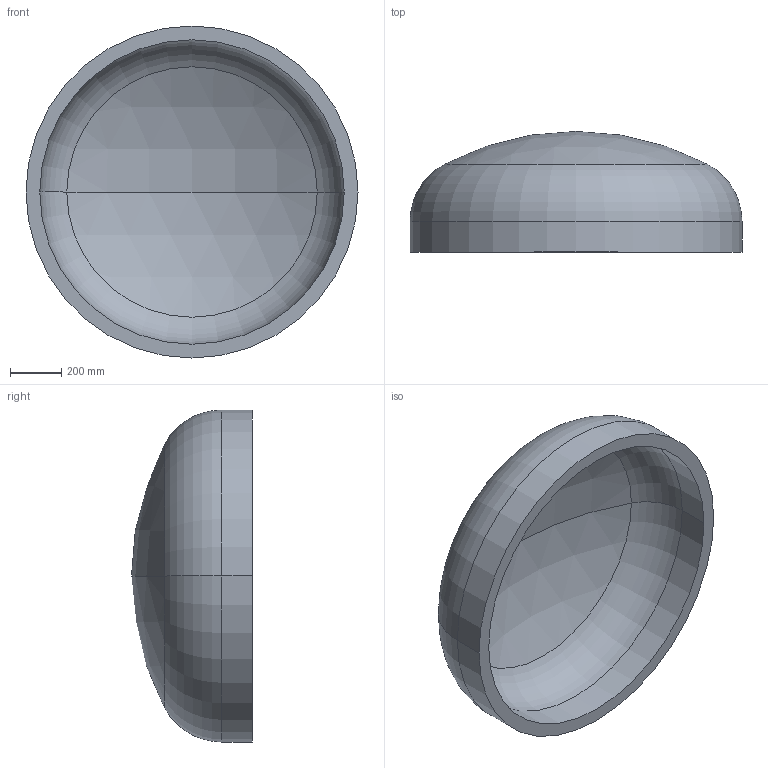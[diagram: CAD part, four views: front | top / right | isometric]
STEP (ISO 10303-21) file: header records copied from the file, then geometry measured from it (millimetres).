
FILE_DESCRIPTION (( 'STEP AP203' ), '1' );
FILE_NAME ('DIN 28013 Korbbogenform_-_Boden DIN 28013 - 1300 x 120 - I - s=54.step', '2016-07-01T09:55:03', ( '' ), ( '' ), 'SwSTEP 2.0', 'SolidWorks 2013', '' );
FILE_SCHEMA (( 'CONFIG_CONTROL_DESIGN' ));
Length unit declared in the file: millimetre
Products named in the file (1): DIN 28013 Korbbogenform_-_Boden DIN 28013 - 1300 x 120 - I - s=54
Bounding box: 1300 x 473.2 x 1300 mm (x, y, z)
Volume: 119420741.1 mm3; surface area: 4640475.5 mm2
Topology: 1 solids, 1 shells, 13 faces, 24 edges, 14 vertices
Faces by surface type: torus 4, cylinder 4, sphere 4, plane 1
Entity records: 407 total; most frequent: DIRECTION 72, CARTESIAN_POINT 52, ORIENTED_EDGE 48, AXIS2_PLACEMENT_3D 34, EDGE_CURVE 24, CIRCLE 20, EDGE_LOOP 14, VERTEX_POINT 14
